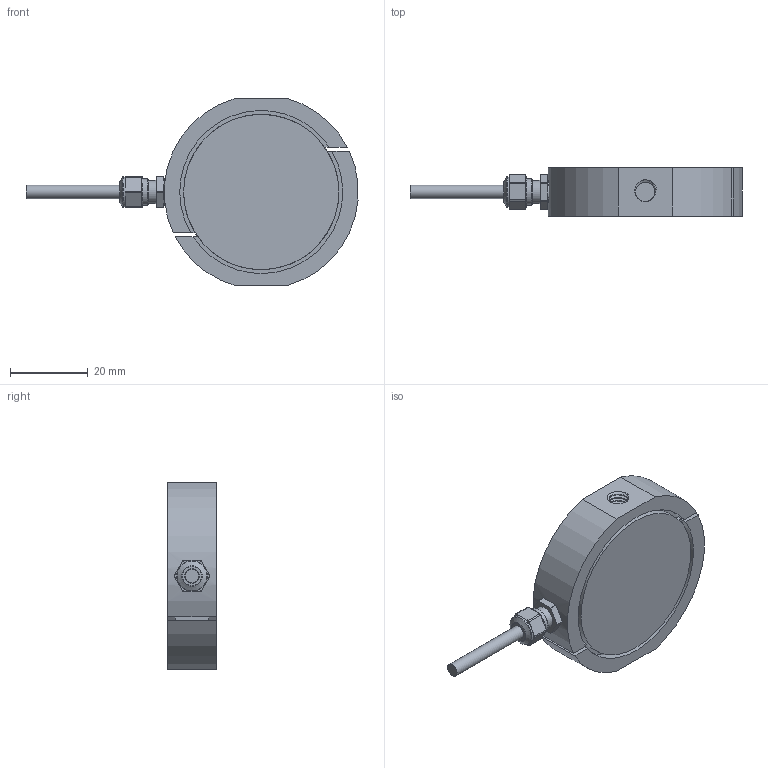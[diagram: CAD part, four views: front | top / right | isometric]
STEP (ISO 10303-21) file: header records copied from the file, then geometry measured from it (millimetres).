
FILE_DESCRIPTION(/* description */ (''),/* implementation_level */ '2;1');
FILE_NAME(/* name */ 'I:/New Datasheets/STEP Models/Pending models/DBCR.step',/* time_stamp */ '2020-01-16T15:17:36+00:00',/* author */ (''),/* organization */ (''),/* preprocessor_version */ 'ST-DEVELOPER v18',/* originating_system */ 'Autodesk Translation Framework v8.12.0.6',/* authorisation */ '');
FILE_SCHEMA (('AUTOMOTIVE_DESIGN { 1 0 10303 214 3 1 1 }'));
Length unit declared in the file: millimetre
Products named in the file (2): DBCR; DBCR_1
Assembly tree (1 placements, depth 2):
  DBCR
    DBCR_1
Bounding box: 85.49 x 12.5 x 48 mm (x, y, z)
Volume: 23381.9 mm3; surface area: 9911.7 mm2
Topology: 1 solids, 3 shells, 171 faces, 433 edges, 285 vertices
Faces by surface type: cylinder 91, plane 56, cone 12, torus 8, bspline 4
Full cylindrical faces by diameter (mm): 3.4 x2, 3.6 x1, 3.7 x1, 4.7 x1, 4.773 x1, 4.8 x2, 5.035 x26, 5.93 x1, 6.147 x20, 6.2 x1, 6.38 x1, 6.84 x1, 7 x1, 7.9 x2, 40 x2
Entity records: 8131 total; most frequent: CARTESIAN_POINT 4028, ORIENTED_EDGE 864, DIRECTION 817, EDGE_CURVE 432, AXIS2_PLACEMENT_3D 325, VERTEX_POINT 285, EDGE_LOOP 192, FACE_OUTER_BOUND 171
